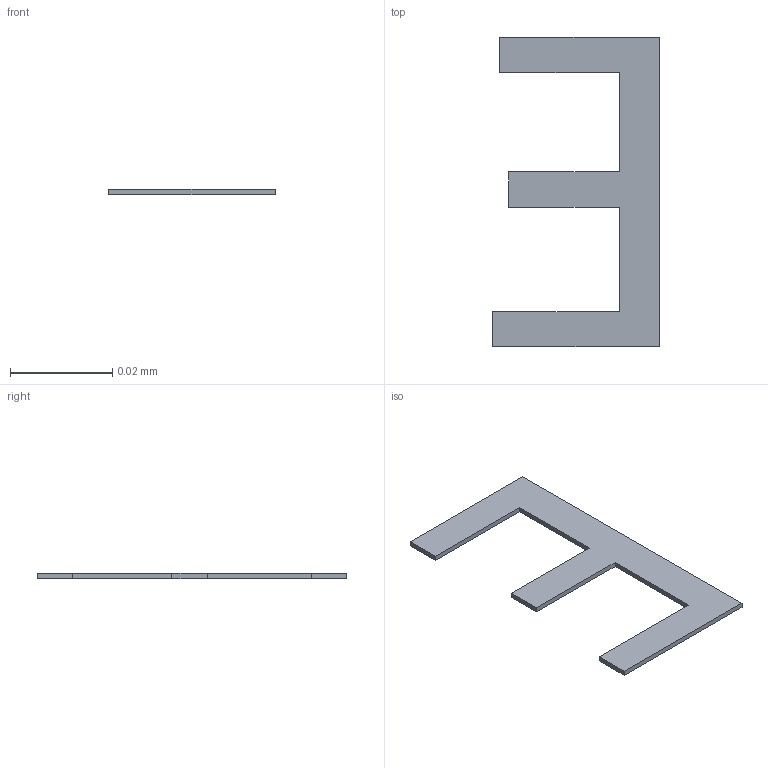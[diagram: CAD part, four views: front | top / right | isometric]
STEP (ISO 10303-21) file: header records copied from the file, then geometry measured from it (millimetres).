
FILE_DESCRIPTION(/* description */ ('STEP AP242 Edition 2','CAx-IF Rec.Pracs.---Representation and Presentation of Product Manufacturing Information (PMI)---4.0---2014-10-13','CAx-IF Rec.Pracs.---3D Tessellated Geometry---0.4---2014-09-14','2;1','CAx-IF Rec.Pracs.---User Defined Attributes---1.5---2016-08-15'),/* implementation_level */ '2;1');
FILE_NAME(/* name */ 'Assembly 1 - SOT-23-6_L2.9-W1.6-P0.95-LS2.8-BL~SOT-23-6_L2.9-W1.6-H1.5-LS2.8-P0.95~nxQB (14)',/* time_stamp */ '2026-04-02T09:55:24Z',/* author */ (''),/* organization */ (''),/* preprocessor_version */ 'ST-DEVELOPER v20',/* originating_system */ 'ONSHAPE BY PTC INC, 1.212',/* authorisation */ ' ');
FILE_SCHEMA (('AP242_MANAGED_MODEL_BASED_3D_ENGINEERING_MIM_LF { 1 0 10303 442 3 1 4 }'));
Length unit declared in the file: metre
Products named in the file (1): SOT-23-6_L2.9-W1.6-P0.95-LS2.8-BL~SOT-23-6_L2.9-W1.6-H1.5-LS2.8-P0.95
~nxQB
Bounding box: 0.03 x 0.06 x 0 mm (x, y, z)
Volume: 0 mm3; surface area: 0 mm2
Topology: 1 solids, 1 shells, 14 faces, 36 edges, 24 vertices
Faces by surface type: plane 14
Entity records: 541 total; most frequent: CARTESIAN_POINT 75, ORIENTED_EDGE 72, DIRECTION 66, EDGE_CURVE 36, LINE 36, VECTOR 36, VERTEX_POINT 24, PRESENTATION_STYLE_ASSIGNMENT 15
